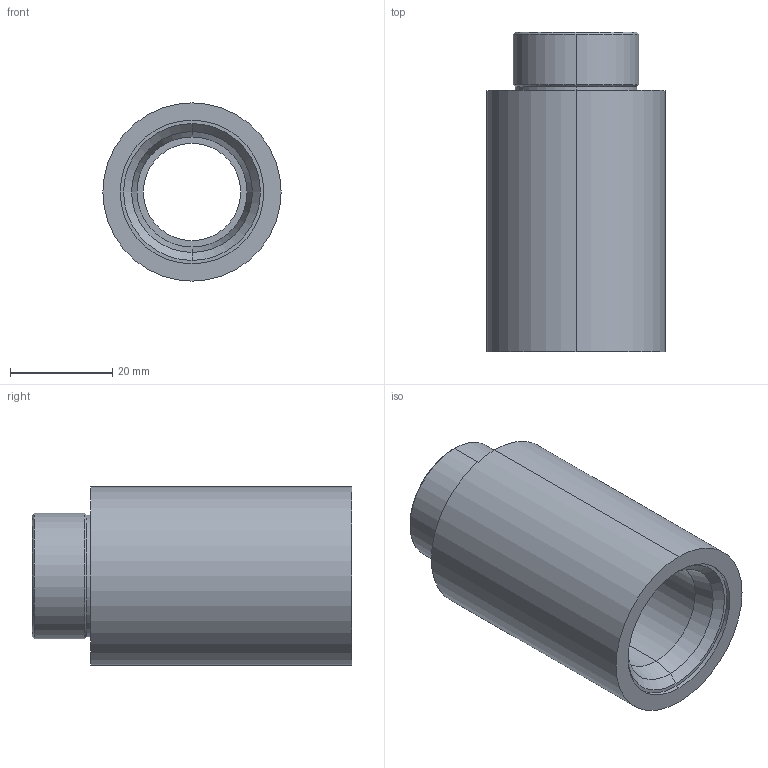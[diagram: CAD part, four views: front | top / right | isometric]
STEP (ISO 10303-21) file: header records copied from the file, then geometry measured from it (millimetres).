
FILE_DESCRIPTION (( 'STEP AP214' ), '1' );
FILE_NAME ('BTQ-19-CL-CM.STEP', '2014-01-15T20:25:14', ( '' ), ( '' ), 'SwSTEP 2.0', 'SolidWorks 2014', '' );
FILE_SCHEMA (( 'AUTOMOTIVE_DESIGN' ));
Length unit declared in the file: millimetre
Products named in the file (1): BTQ-19-CL-CM
Bounding box: 34.92 x 62.61 x 34.92 mm (x, y, z)
Volume: 32132.3 mm3; surface area: 11907 mm2
Topology: 1 solids, 1 shells, 25 faces, 50 edges, 30 vertices
Faces by surface type: cylinder 12, cone 8, plane 5
Entity records: 692 total; most frequent: DIRECTION 132, CARTESIAN_POINT 106, ORIENTED_EDGE 100, AXIS2_PLACEMENT_3D 56, EDGE_CURVE 50, EDGE_LOOP 30, VERTEX_POINT 30, CIRCLE 30
